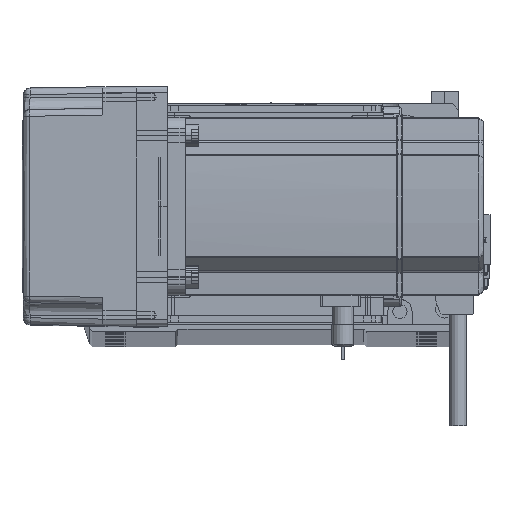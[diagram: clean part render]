
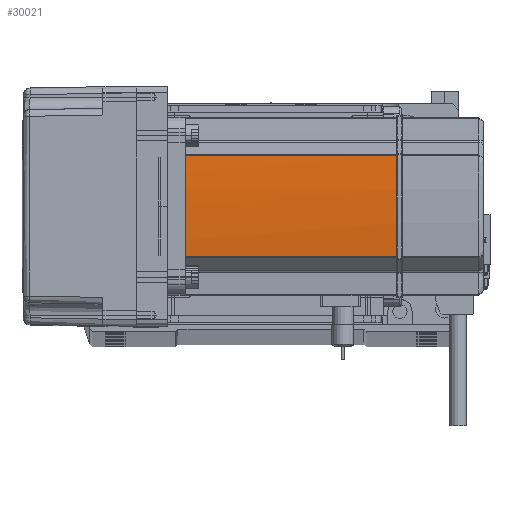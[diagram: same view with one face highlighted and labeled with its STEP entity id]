
A CAD part, top view. The second image highlights one B-rep face of the part: STEP entity #30021.
In plain terms, the highlighted cylindrical face has radius 270 mm (diameter 540 mm), a partial arc.
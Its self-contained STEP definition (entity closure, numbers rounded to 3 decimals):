
#38 = EDGE_CURVE ( 'NONE', #34735, #14130, #7243, .T. ) ;
#1385 = VERTEX_POINT ( 'NONE', #68779 ) ;
#1655 = CIRCLE ( 'NONE', #57175, 270. ) ;
#2387 = DIRECTION ( 'NONE',  ( 0., 0., -1. ) ) ;
#4261 = DIRECTION ( 'NONE',  ( 0., 0., -1. ) ) ;
#6160 = CYLINDRICAL_SURFACE ( 'NONE', #57275, 270. ) ;
#7243 = CIRCLE ( 'NONE', #24717, 270. ) ;
#10371 = DIRECTION ( 'NONE',  ( -1., 0., 0. ) ) ;
#10997 = CIRCLE ( 'NONE', #56141, 270. ) ;
#14130 = VERTEX_POINT ( 'NONE', #56075 ) ;
#14396 = ORIENTED_EDGE ( 'NONE', *, *, #25306, .F. ) ;
#17574 = CARTESIAN_POINT ( 'NONE',  ( 39.042, -22.724, 39. ) ) ;
#18034 = CARTESIAN_POINT ( 'NONE',  ( -230., 0., 39. ) ) ;
#19013 = CARTESIAN_POINT ( 'NONE',  ( 40., 0.127, 134. ) ) ;
#21245 = LINE ( 'NONE', #47101, #46466 ) ;
#21936 = DIRECTION ( 'NONE',  ( 0., 0., -1. ) ) ;
#23731 = CARTESIAN_POINT ( 'NONE',  ( 40., -0.127, 134. ) ) ;
#24717 = AXIS2_PLACEMENT_3D ( 'NONE', #34874, #2387, #45631 ) ;
#25306 = EDGE_CURVE ( 'NONE', #1385, #35379, #10997, .T. ) ;
#27985 = EDGE_CURVE ( 'NONE', #1385, #55474, #64543, .T. ) ;
#28104 = ORIENTED_EDGE ( 'NONE', *, *, #27985, .T. ) ;
#29481 = ORIENTED_EDGE ( 'NONE', *, *, #65984, .T. ) ;
#29574 = DIRECTION ( 'NONE',  ( 0., 0., -1. ) ) ;
#29853 = B_SPLINE_CURVE_WITH_KNOTS ( 'NONE', 3,
 ( #23731, #40189, #61350, #19013 ),
 .UNSPECIFIED., .F., .F.,
 ( 4, 4 ),
 ( 0., 1. ),
 .UNSPECIFIED. ) ;
#30021 = ADVANCED_FACE ( 'NONE', ( #65082 ), #6160, .T. ) ;
#30986 = EDGE_LOOP ( 'NONE', ( #29481, #14396, #28104, #58575, #35745, #52106 ) ) ;
#34074 = EDGE_CURVE ( 'NONE', #34735, #35886, #29853, .T. ) ;
#34735 = VERTEX_POINT ( 'NONE', #68774 ) ;
#34874 = CARTESIAN_POINT ( 'NONE',  ( -230., 0., 134. ) ) ;
#35379 = VERTEX_POINT ( 'NONE', #17574 ) ;
#35745 = ORIENTED_EDGE ( 'NONE', *, *, #34074, .F. ) ;
#35886 = VERTEX_POINT ( 'NONE', #66664 ) ;
#36601 = CARTESIAN_POINT ( 'NONE',  ( 39.042, 22.724, 58. ) ) ;
#36949 = CARTESIAN_POINT ( 'NONE',  ( -230., 0., 58. ) ) ;
#38191 = DIRECTION ( 'NONE',  ( -1., 0., 0. ) ) ;
#40189 = CARTESIAN_POINT ( 'NONE',  ( 40., -0.042, 134. ) ) ;
#45631 = DIRECTION ( 'NONE',  ( -1., 0., 0. ) ) ;
#46466 = VECTOR ( 'NONE', #67899, 1000. ) ;
#47101 = CARTESIAN_POINT ( 'NONE',  ( 39.042, -22.724, 58. ) ) ;
#50172 = VECTOR ( 'NONE', #58441, 1000. ) ;
#51926 = CARTESIAN_POINT ( 'NONE',  ( 39.042, 22.724, 134. ) ) ;
#52106 = ORIENTED_EDGE ( 'NONE', *, *, #38, .T. ) ;
#55474 = VERTEX_POINT ( 'NONE', #51926 ) ;
#56075 = CARTESIAN_POINT ( 'NONE',  ( 39.042, -22.724, 134. ) ) ;
#56141 = AXIS2_PLACEMENT_3D ( 'NONE', #18034, #29574, #61282 ) ;
#57175 = AXIS2_PLACEMENT_3D ( 'NONE', #65677, #21936, #38191 ) ;
#57275 = AXIS2_PLACEMENT_3D ( 'NONE', #36949, #4261, #10371 ) ;
#58441 = DIRECTION ( 'NONE',  ( 0., 0., 1. ) ) ;
#58575 = ORIENTED_EDGE ( 'NONE', *, *, #61673, .T. ) ;
#61282 = DIRECTION ( 'NONE',  ( -1., 0., 0. ) ) ;
#61350 = CARTESIAN_POINT ( 'NONE',  ( 40., 0.042, 134. ) ) ;
#61673 = EDGE_CURVE ( 'NONE', #55474, #35886, #1655, .T. ) ;
#64543 = LINE ( 'NONE', #36601, #50172 ) ;
#65082 = FACE_OUTER_BOUND ( 'NONE', #30986, .T. ) ;
#65677 = CARTESIAN_POINT ( 'NONE',  ( -230., 0., 134. ) ) ;
#65984 = EDGE_CURVE ( 'NONE', #14130, #35379, #21245, .T. ) ;
#66664 = CARTESIAN_POINT ( 'NONE',  ( 40., 0.127, 134. ) ) ;
#67899 = DIRECTION ( 'NONE',  ( 0., 0., -1. ) ) ;
#68774 = CARTESIAN_POINT ( 'NONE',  ( 40., -0.127, 134. ) ) ;
#68779 = CARTESIAN_POINT ( 'NONE',  ( 39.042, 22.724, 39. ) ) ;
